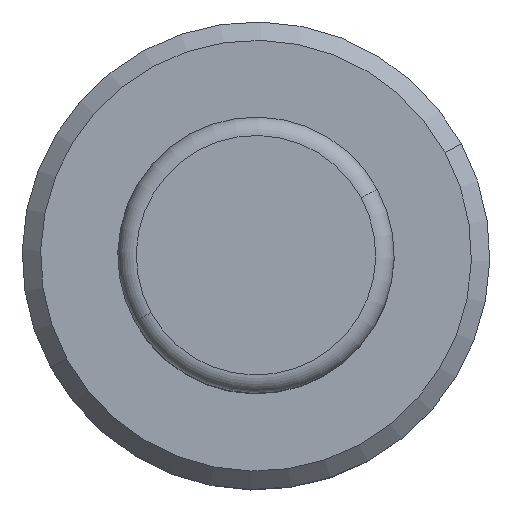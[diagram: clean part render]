
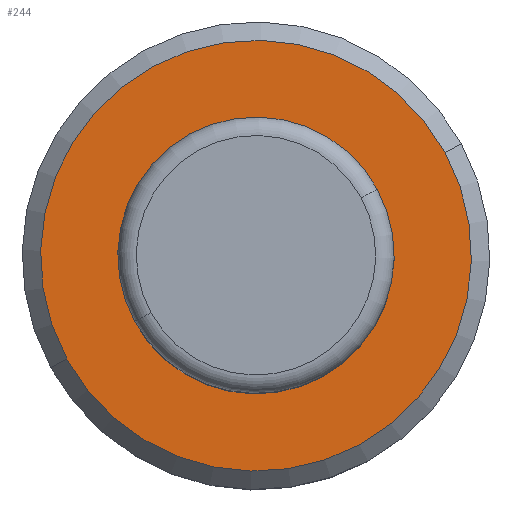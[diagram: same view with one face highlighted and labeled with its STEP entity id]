
A CAD part, top view. The second image highlights one B-rep face of the part: STEP entity #244.
In plain terms, the highlighted planar face has unit normal (0, 0, 1).
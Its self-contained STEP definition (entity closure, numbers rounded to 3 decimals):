
#183=CARTESIAN_POINT('Vertex',(-6.582,-3.596,69.)) ;
#186=CARTESIAN_POINT('Axis2P3D Location',(0.,0.,69.)) ;
#190=CARTESIAN_POINT('Vertex',(6.582,3.596,69.)) ;
#205=CARTESIAN_POINT('Axis2P3D Location',(0.,0.,69.)) ;
#217=CARTESIAN_POINT('Axis2P3D Location',(11.693,0.,69.)) ;
#222=CARTESIAN_POINT('Axis2P3D Location',(0.,0.,69.)) ;
#226=CARTESIAN_POINT('Vertex',(-10.261,-5.606,69.)) ;
#228=CARTESIAN_POINT('Vertex',(10.261,5.606,69.)) ;
#231=CARTESIAN_POINT('Axis2P3D Location',(0.,0.,69.)) ;
#187=DIRECTION('Axis2P3D Direction',(0.,0.,1.)) ;
#206=DIRECTION('Axis2P3D Direction',(0.,0.,1.)) ;
#218=DIRECTION('Axis2P3D Direction',(0.,0.,1.)) ;
#219=DIRECTION('Axis2P3D XDirection',(1.,0.,0.)) ;
#223=DIRECTION('Axis2P3D Direction',(0.,0.,1.)) ;
#232=DIRECTION('Axis2P3D Direction',(0.,0.,1.)) ;
#188=AXIS2_PLACEMENT_3D('Circle Axis2P3D',#186,#187,$) ;
#207=AXIS2_PLACEMENT_3D('Circle Axis2P3D',#205,#206,$) ;
#220=AXIS2_PLACEMENT_3D('Plane Axis2P3D',#217,#218,#219) ;
#224=AXIS2_PLACEMENT_3D('Circle Axis2P3D',#222,#223,$) ;
#233=AXIS2_PLACEMENT_3D('Circle Axis2P3D',#231,#232,$) ;
#237=ORIENTED_EDGE('',*,*,#230,.T.) ;
#238=ORIENTED_EDGE('',*,*,#235,.T.) ;
#241=ORIENTED_EDGE('',*,*,#209,.F.) ;
#242=ORIENTED_EDGE('',*,*,#192,.F.) ;
#243=FACE_BOUND('',#240,.T.) ;
#244=ADVANCED_FACE('',(#239,#243),#221,.T.) ;
#189=CIRCLE('generated circle',#188,7.5) ;
#208=CIRCLE('generated circle',#207,7.5) ;
#225=CIRCLE('generated circle',#224,11.693) ;
#234=CIRCLE('generated circle',#233,11.693) ;
#192=EDGE_CURVE('',#184,#191,#189,.T.) ;
#209=EDGE_CURVE('',#191,#184,#208,.T.) ;
#230=EDGE_CURVE('',#227,#229,#225,.T.) ;
#235=EDGE_CURVE('',#229,#227,#234,.T.) ;
#236=EDGE_LOOP('',(#237,#238)) ;
#240=EDGE_LOOP('',(#241,#242)) ;
#239=FACE_OUTER_BOUND('',#236,.T.) ;
#221=PLANE('Plane',#220) ;
#184=VERTEX_POINT('',#183) ;
#191=VERTEX_POINT('',#190) ;
#227=VERTEX_POINT('',#226) ;
#229=VERTEX_POINT('',#228) ;
